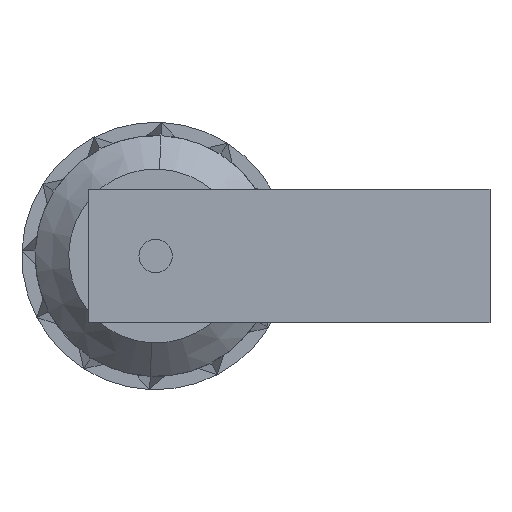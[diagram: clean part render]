
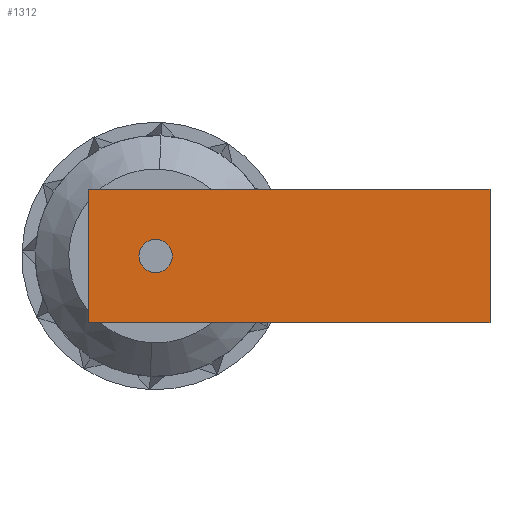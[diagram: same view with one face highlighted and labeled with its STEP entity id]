
A CAD part, left-side view. The second image highlights one B-rep face of the part: STEP entity #1312.
In plain terms, the highlighted planar face has unit normal (-1, 0, 0).
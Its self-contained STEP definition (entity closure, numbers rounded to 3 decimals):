
#10 = CARTESIAN_POINT ( 'NONE',  ( -33.609, 5.506, 59. ) ) ;
#27 = DIRECTION ( 'NONE',  ( 1., 0., 0. ) ) ;
#39 = EDGE_CURVE ( 'NONE', #2250, #2949, #1033, .T. ) ;
#203 = CARTESIAN_POINT ( 'NONE',  ( -33.609, 4.756, 58. ) ) ;
#210 = VECTOR ( 'NONE', #463, 1000. ) ;
#217 = CARTESIAN_POINT ( 'NONE',  ( -33.609, 5.506, 57. ) ) ;
#226 = ORIENTED_EDGE ( 'NONE', *, *, #39, .F. ) ;
#291 = CIRCLE ( 'NONE', #1745, 0.25 ) ;
#405 = VECTOR ( 'NONE', #2861, 1000. ) ;
#430 = CARTESIAN_POINT ( 'NONE',  ( -33.609, 4.256, 58. ) ) ;
#458 = EDGE_LOOP ( 'NONE', ( #1251, #226, #1224, #2397 ) ) ;
#463 = DIRECTION ( 'NONE',  ( 0., -1., 0. ) ) ;
#518 = PLANE ( 'NONE',  #2659 ) ;
#655 = EDGE_CURVE ( 'NONE', #886, #2688, #1474, .T. ) ;
#793 = DIRECTION ( 'NONE',  ( 0., 0., -1. ) ) ;
#818 = ORIENTED_EDGE ( 'NONE', *, *, #1996, .F. ) ;
#886 = VERTEX_POINT ( 'NONE', #430 ) ;
#905 = CARTESIAN_POINT ( 'NONE',  ( -33.609, 4.506, 58. ) ) ;
#926 = DIRECTION ( 'NONE',  ( 0., -1., 0. ) ) ;
#939 = VERTEX_POINT ( 'NONE', #2550 ) ;
#1033 = LINE ( 'NONE', #1248, #405 ) ;
#1138 = DIRECTION ( 'NONE',  ( -1., 0., 0. ) ) ;
#1183 = CARTESIAN_POINT ( 'NONE',  ( -33.609, 5.506, 59. ) ) ;
#1224 = ORIENTED_EDGE ( 'NONE', *, *, #2832, .F. ) ;
#1248 = CARTESIAN_POINT ( 'NONE',  ( -33.609, -0.494, 59. ) ) ;
#1251 = ORIENTED_EDGE ( 'NONE', *, *, #2863, .T. ) ;
#1312 = ADVANCED_FACE ( 'NONE', ( #1938, #2620 ), #518, .F. ) ;
#1453 = VECTOR ( 'NONE', #926, 1000. ) ;
#1474 = CIRCLE ( 'NONE', #2420, 0.25 ) ;
#1481 = DIRECTION ( 'NONE',  ( -1., 0., 0. ) ) ;
#1627 = CARTESIAN_POINT ( 'NONE',  ( -33.609, -0.494, 57. ) ) ;
#1745 = AXIS2_PLACEMENT_3D ( 'NONE', #905, #1138, #1806 ) ;
#1806 = DIRECTION ( 'NONE',  ( 0., 1., 0. ) ) ;
#1938 = FACE_OUTER_BOUND ( 'NONE', #458, .T. ) ;
#1996 = EDGE_CURVE ( 'NONE', #2688, #886, #291, .T. ) ;
#2035 = ORIENTED_EDGE ( 'NONE', *, *, #655, .F. ) ;
#2059 = CARTESIAN_POINT ( 'NONE',  ( -33.609, 5.506, 59. ) ) ;
#2157 = EDGE_LOOP ( 'NONE', ( #818, #2035 ) ) ;
#2177 = CARTESIAN_POINT ( 'NONE',  ( -33.609, 4.506, 58. ) ) ;
#2218 = VERTEX_POINT ( 'NONE', #10 ) ;
#2250 = VERTEX_POINT ( 'NONE', #2308 ) ;
#2308 = CARTESIAN_POINT ( 'NONE',  ( -33.609, -0.494, 59. ) ) ;
#2313 = EDGE_CURVE ( 'NONE', #2218, #939, #2416, .T. ) ;
#2332 = DIRECTION ( 'NONE',  ( 0., 1., 0. ) ) ;
#2385 = DIRECTION ( 'NONE',  ( 0., 1., 0. ) ) ;
#2397 = ORIENTED_EDGE ( 'NONE', *, *, #2313, .T. ) ;
#2416 = LINE ( 'NONE', #2531, #2822 ) ;
#2420 = AXIS2_PLACEMENT_3D ( 'NONE', #2177, #1481, #2385 ) ;
#2531 = CARTESIAN_POINT ( 'NONE',  ( -33.609, 5.506, 59. ) ) ;
#2550 = CARTESIAN_POINT ( 'NONE',  ( -33.609, 5.506, 57. ) ) ;
#2596 = LINE ( 'NONE', #217, #1453 ) ;
#2620 = FACE_BOUND ( 'NONE', #2157, .T. ) ;
#2659 = AXIS2_PLACEMENT_3D ( 'NONE', #1183, #27, #2332 ) ;
#2688 = VERTEX_POINT ( 'NONE', #203 ) ;
#2738 = LINE ( 'NONE', #2059, #210 ) ;
#2822 = VECTOR ( 'NONE', #793, 1000. ) ;
#2832 = EDGE_CURVE ( 'NONE', #2218, #2250, #2738, .T. ) ;
#2861 = DIRECTION ( 'NONE',  ( 0., 0., -1. ) ) ;
#2863 = EDGE_CURVE ( 'NONE', #939, #2949, #2596, .T. ) ;
#2949 = VERTEX_POINT ( 'NONE', #1627 ) ;
